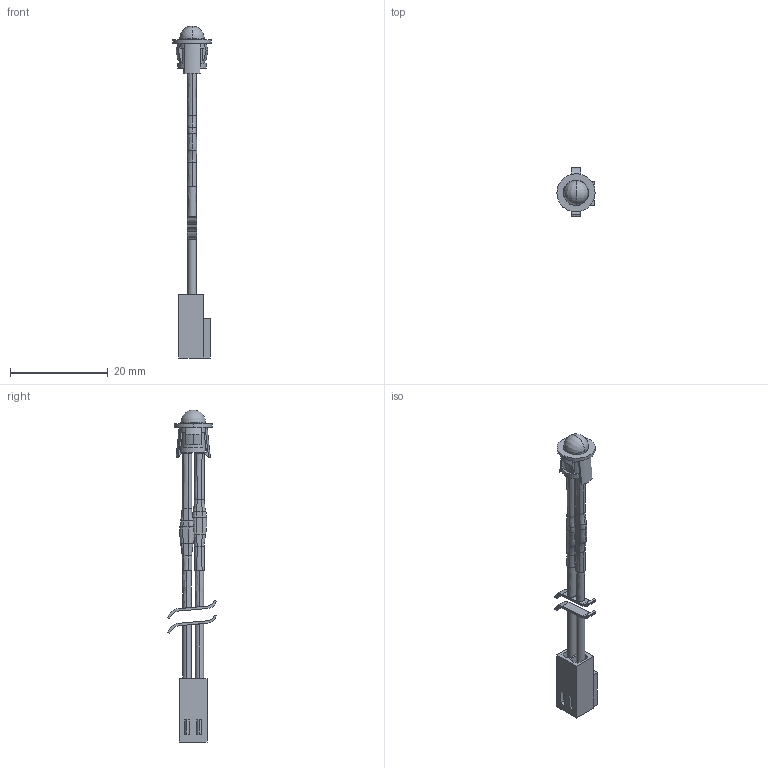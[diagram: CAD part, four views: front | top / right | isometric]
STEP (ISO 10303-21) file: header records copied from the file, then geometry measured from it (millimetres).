
FILE_DESCRIPTION((''),'2;1');
FILE_NAME('15009438Z_LED-PLUG-ASSY','2015-05-04T',('juergen.hrach'),(''),'PRO/ENGINEER BY PARAMETRIC TECHNOLOGY CORPORATION, 2014000','PRO/ENGINEER BY PARAMETRIC TECHNOLOGY CORPORATION, 2014000','');
FILE_SCHEMA(('AUTOMOTIVE_DESIGN { 1 0 10303 214 1 1 1 1 }'));
Length unit declared in the file: millimetre
Products named in the file (1): 15009438Z_LED-PLUG-ASSY
Bounding box: 7.8 x 9.98 x 67.8 mm (x, y, z)
Volume: 704.1 mm3; surface area: 2013.8 mm2
Topology: 3 solids, 6 shells, 262 faces, 661 edges, 410 vertices
Faces by surface type: bspline 208, revolution 54
Entity records: 14325 total; most frequent: CARTESIAN_POINT 6642, ORIENTED_EDGE 1303, PRESENTATION_STYLE_ASSIGNMENT 657, STYLED_ITEM 657, CURVE_STYLE 653, EDGE_CURVE 653, DIRECTION 601, VERTEX_POINT 412
